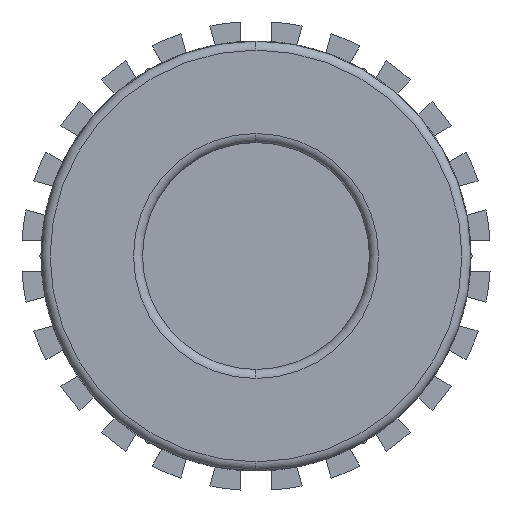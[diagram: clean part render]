
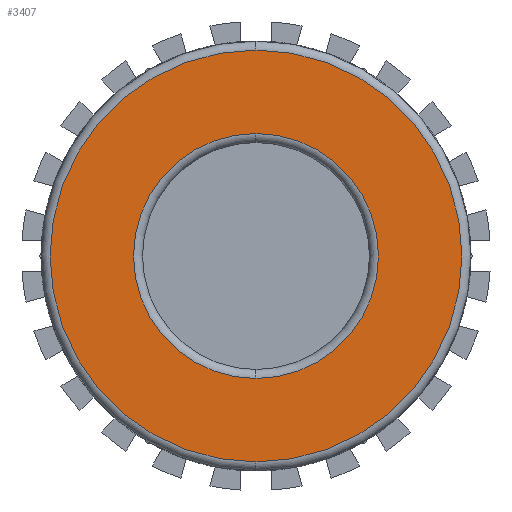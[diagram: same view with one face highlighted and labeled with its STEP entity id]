
A CAD part, left-side view. The second image highlights one B-rep face of the part: STEP entity #3407.
In plain terms, the highlighted planar face has unit normal (-1, 0, 0).
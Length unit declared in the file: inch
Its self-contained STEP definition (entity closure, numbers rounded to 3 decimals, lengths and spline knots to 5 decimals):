
#172 = CARTESIAN_POINT ( 'NONE',  ( -2.84141, 0., 0. ) ) ;
#173 = DIRECTION ( 'NONE',  ( -1., 0., 0. ) ) ;
#175 = DIRECTION ( 'NONE',  ( 0., 0., -1. ) ) ;
#225 = DIRECTION ( 'NONE',  ( 0., 0., -1. ) ) ;
#228 = DIRECTION ( 'NONE',  ( 1., 0., 0. ) ) ;
#332 = CARTESIAN_POINT ( 'NONE',  ( -2.84141, 0., 0. ) ) ;
#491 = EDGE_CURVE ( 'NONE', #2884, #2872, #3551, .T. ) ;
#577 = EDGE_CURVE ( 'NONE', #2888, #2575, #2297, .T. ) ;
#661 = DIRECTION ( 'NONE',  ( 0., 0., -1. ) ) ;
#662 = DIRECTION ( 'NONE',  ( -1., 0., 0. ) ) ;
#663 = CARTESIAN_POINT ( 'NONE',  ( -2.84141, 0., 0. ) ) ;
#918 = DIRECTION ( 'NONE',  ( 0., 0., -1. ) ) ;
#919 = DIRECTION ( 'NONE',  ( 1., 0., 0. ) ) ;
#925 = CARTESIAN_POINT ( 'NONE',  ( -2.84141, 0., 0. ) ) ;
#1058 = EDGE_LOOP ( 'NONE', ( #2217, #2218 ) ) ;
#1103 = DIRECTION ( 'NONE',  ( 0., 0., -1. ) ) ;
#1105 = PLANE ( 'NONE',  #1973 ) ;
#1107 = CARTESIAN_POINT ( 'NONE',  ( -2.84141, 0., 0. ) ) ;
#1110 = DIRECTION ( 'NONE',  ( 1., 0., 0. ) ) ;
#1443 = FACE_BOUND ( 'NONE', #1058, .T. ) ;
#1445 = FACE_OUTER_BOUND ( 'NONE', #3063, .T. ) ;
#1669 = EDGE_CURVE ( 'NONE', #2872, #2884, #4038, .T. ) ;
#1672 = EDGE_CURVE ( 'NONE', #2575, #2888, #4041, .T. ) ;
#1797 = AXIS2_PLACEMENT_3D ( 'NONE', #925, #919, #918 ) ;
#1840 = AXIS2_PLACEMENT_3D ( 'NONE', #663, #662, #661 ) ;
#1891 = AXIS2_PLACEMENT_3D ( 'NONE', #332, #228, #225 ) ;
#1893 = AXIS2_PLACEMENT_3D ( 'NONE', #172, #173, #175 ) ;
#1973 = AXIS2_PLACEMENT_3D ( 'NONE', #1107, #1110, #1103 ) ;
#2217 = ORIENTED_EDGE ( 'NONE', *, *, #491, .T. ) ;
#2218 = ORIENTED_EDGE ( 'NONE', *, *, #1669, .T. ) ;
#2219 = ORIENTED_EDGE ( 'NONE', *, *, #1672, .T. ) ;
#2220 = ORIENTED_EDGE ( 'NONE', *, *, #577, .T. ) ;
#2297 = CIRCLE ( 'NONE', #1840, 0.685 ) ;
#2415 = CARTESIAN_POINT ( 'NONE',  ( -2.84141, 0., 0.685 ) ) ;
#2451 = CARTESIAN_POINT ( 'NONE',  ( -2.84141, 0., 0.4075 ) ) ;
#2571 = CARTESIAN_POINT ( 'NONE',  ( -2.84141, 0., -0.4075 ) ) ;
#2575 = VERTEX_POINT ( 'NONE', #3633 ) ;
#2872 = VERTEX_POINT ( 'NONE', #2451 ) ;
#2884 = VERTEX_POINT ( 'NONE', #2571 ) ;
#2888 = VERTEX_POINT ( 'NONE', #2415 ) ;
#3063 = EDGE_LOOP ( 'NONE', ( #2219, #2220 ) ) ;
#3407 = ADVANCED_FACE ( 'NONE', ( #1443, #1445 ), #1105, .F. ) ;
#3551 = CIRCLE ( 'NONE', #1797, 0.4075 ) ;
#3633 = CARTESIAN_POINT ( 'NONE',  ( -2.84141, 0., -0.685 ) ) ;
#4038 = CIRCLE ( 'NONE', #1891, 0.4075 ) ;
#4041 = CIRCLE ( 'NONE', #1893, 0.685 ) ;
